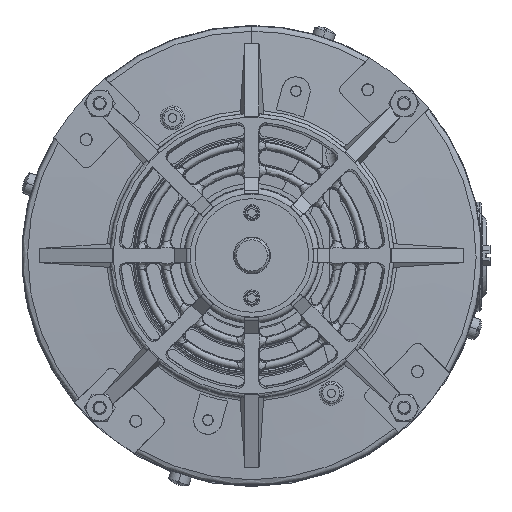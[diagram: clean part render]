
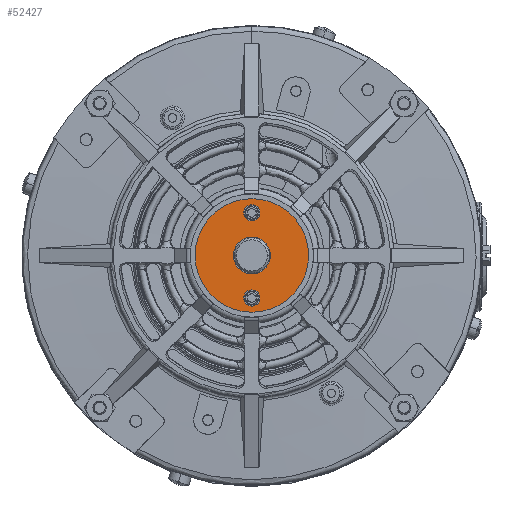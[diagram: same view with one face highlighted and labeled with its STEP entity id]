
A CAD part, top view. The second image highlights one B-rep face of the part: STEP entity #52427.
In plain terms, the highlighted planar face has unit normal (0, 0, 1).
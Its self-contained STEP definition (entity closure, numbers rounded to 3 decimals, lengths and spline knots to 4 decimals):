
#6622 = ORIENTED_EDGE ( 'NONE', *, *, #18330, .F. ) ;
#7946 = CARTESIAN_POINT ( 'NONE',  ( 0., 0., 5.355 ) ) ;
#8003 = EDGE_LOOP ( 'NONE', ( #28621, #103102 ) ) ;
#9812 = VERTEX_POINT ( 'NONE', #74674 ) ;
#11898 = AXIS2_PLACEMENT_3D ( 'NONE', #45367, #109101, #54540 ) ;
#12119 = EDGE_LOOP ( 'NONE', ( #48037, #84038 ) ) ;
#17828 = CIRCLE ( 'NONE', #11898, 0.8 ) ;
#18330 = EDGE_CURVE ( 'NONE', #112537, #60529, #21541, .T. ) ;
#20291 = CIRCLE ( 'NONE', #72944, 0.26 ) ;
#21541 = CIRCLE ( 'NONE', #45122, 0.0625 ) ;
#22797 = AXIS2_PLACEMENT_3D ( 'NONE', #102801, #48287, #112010 ) ;
#23694 = EDGE_LOOP ( 'NONE', ( #52289, #54742 ) ) ;
#26056 = PLANE ( 'NONE',  #113555 ) ;
#26783 = AXIS2_PLACEMENT_3D ( 'NONE', #45974, #109716, #55155 ) ;
#28621 = ORIENTED_EDGE ( 'NONE', *, *, #64311, .F. ) ;
#29109 = DIRECTION ( 'NONE',  ( 0., -1., 0. ) ) ;
#31647 = CARTESIAN_POINT ( 'NONE',  ( 0., 0.5375, 5.355 ) ) ;
#34985 = CIRCLE ( 'NONE', #22797, 0.8 ) ;
#35256 = DIRECTION ( 'NONE',  ( 0., 0., -1. ) ) ;
#37900 = CIRCLE ( 'NONE', #26783, 0.26 ) ;
#38575 = AXIS2_PLACEMENT_3D ( 'NONE', #44558, #108293, #53741 ) ;
#41101 = CARTESIAN_POINT ( 'NONE',  ( 0., -0.6, 5.355 ) ) ;
#42698 = EDGE_CURVE ( 'NONE', #94001, #95883, #20291, .T. ) ;
#44558 = CARTESIAN_POINT ( 'NONE',  ( 0., 0.6, 5.355 ) ) ;
#45122 = AXIS2_PLACEMENT_3D ( 'NONE', #114406, #54171, #29109 ) ;
#45367 = CARTESIAN_POINT ( 'NONE',  ( 0., 0., 5.355 ) ) ;
#45974 = CARTESIAN_POINT ( 'NONE',  ( 0., 0., 5.355 ) ) ;
#48037 = ORIENTED_EDGE ( 'NONE', *, *, #72544, .F. ) ;
#48287 = DIRECTION ( 'NONE',  ( 0., 0., -1. ) ) ;
#49523 = EDGE_CURVE ( 'NONE', #110882, #9812, #111516, .T. ) ;
#50260 = DIRECTION ( 'NONE',  ( 0., -1., 0. ) ) ;
#50409 = VERTEX_POINT ( 'NONE', #93711 ) ;
#50451 = CARTESIAN_POINT ( 'NONE',  ( 0., -0.6, 5.355 ) ) ;
#52289 = ORIENTED_EDGE ( 'NONE', *, *, #42698, .T. ) ;
#52427 = ADVANCED_FACE ( 'NONE', ( #96295, #95846, #116963, #98787 ), #26056, .F. ) ;
#53741 = DIRECTION ( 'NONE',  ( 0., -1., 0. ) ) ;
#54171 = DIRECTION ( 'NONE',  ( 0., 0., 1. ) ) ;
#54540 = DIRECTION ( 'NONE',  ( 0., 1., 0. ) ) ;
#54742 = ORIENTED_EDGE ( 'NONE', *, *, #54963, .T. ) ;
#54958 = CARTESIAN_POINT ( 'NONE',  ( 0., 0.26, 5.355 ) ) ;
#54963 = EDGE_CURVE ( 'NONE', #95883, #94001, #37900, .T. ) ;
#55155 = DIRECTION ( 'NONE',  ( 0., 1., 0. ) ) ;
#59608 = DIRECTION ( 'NONE',  ( 0., -1., 0. ) ) ;
#60529 = VERTEX_POINT ( 'NONE', #31647 ) ;
#62754 = DIRECTION ( 'NONE',  ( 0., 1., 0. ) ) ;
#64311 = EDGE_CURVE ( 'NONE', #9812, #110882, #117331, .T. ) ;
#69652 = AXIS2_PLACEMENT_3D ( 'NONE', #41101, #104785, #50260 ) ;
#69806 = CARTESIAN_POINT ( 'NONE',  ( 0., -0.5375, 5.355 ) ) ;
#71269 = CIRCLE ( 'NONE', #38575, 0.0625 ) ;
#72544 = EDGE_CURVE ( 'NONE', #105398, #50409, #34985, .T. ) ;
#72944 = AXIS2_PLACEMENT_3D ( 'NONE', #7946, #98282, #62754 ) ;
#74674 = CARTESIAN_POINT ( 'NONE',  ( 0., -0.6625, 5.355 ) ) ;
#80167 = EDGE_CURVE ( 'NONE', #50409, #105398, #17828, .T. ) ;
#80778 = CARTESIAN_POINT ( 'NONE',  ( 0., -0.26, 5.355 ) ) ;
#84038 = ORIENTED_EDGE ( 'NONE', *, *, #80167, .F. ) ;
#86388 = AXIS2_PLACEMENT_3D ( 'NONE', #50451, #114183, #59608 ) ;
#87344 = ORIENTED_EDGE ( 'NONE', *, *, #105367, .F. ) ;
#89497 = CARTESIAN_POINT ( 'NONE',  ( 0.8, 0., 5.355 ) ) ;
#93711 = CARTESIAN_POINT ( 'NONE',  ( 0., -0.8, 5.355 ) ) ;
#94001 = VERTEX_POINT ( 'NONE', #54958 ) ;
#95846 = FACE_BOUND ( 'NONE', #113899, .T. ) ;
#95883 = VERTEX_POINT ( 'NONE', #80778 ) ;
#96295 = FACE_BOUND ( 'NONE', #8003, .T. ) ;
#97358 = CARTESIAN_POINT ( 'NONE',  ( 0., 0.6625, 5.355 ) ) ;
#98282 = DIRECTION ( 'NONE',  ( 0., 0., -1. ) ) ;
#98787 = FACE_BOUND ( 'NONE', #23694, .T. ) ;
#98983 = DIRECTION ( 'NONE',  ( 0., 1., 0. ) ) ;
#102801 = CARTESIAN_POINT ( 'NONE',  ( 0., 0., 5.355 ) ) ;
#103102 = ORIENTED_EDGE ( 'NONE', *, *, #49523, .F. ) ;
#104785 = DIRECTION ( 'NONE',  ( 0., 0., 1. ) ) ;
#105367 = EDGE_CURVE ( 'NONE', #60529, #112537, #71269, .T. ) ;
#105398 = VERTEX_POINT ( 'NONE', #117456 ) ;
#108293 = DIRECTION ( 'NONE',  ( 0., 0., 1. ) ) ;
#109101 = DIRECTION ( 'NONE',  ( 0., 0., -1. ) ) ;
#109716 = DIRECTION ( 'NONE',  ( 0., 0., -1. ) ) ;
#110882 = VERTEX_POINT ( 'NONE', #69806 ) ;
#111516 = CIRCLE ( 'NONE', #69652, 0.0625 ) ;
#112010 = DIRECTION ( 'NONE',  ( 0., 1., 0. ) ) ;
#112537 = VERTEX_POINT ( 'NONE', #97358 ) ;
#113555 = AXIS2_PLACEMENT_3D ( 'NONE', #89497, #35256, #98983 ) ;
#113899 = EDGE_LOOP ( 'NONE', ( #87344, #6622 ) ) ;
#114183 = DIRECTION ( 'NONE',  ( 0., 0., 1. ) ) ;
#114406 = CARTESIAN_POINT ( 'NONE',  ( 0., 0.6, 5.355 ) ) ;
#116963 = FACE_OUTER_BOUND ( 'NONE', #12119, .T. ) ;
#117331 = CIRCLE ( 'NONE', #86388, 0.0625 ) ;
#117456 = CARTESIAN_POINT ( 'NONE',  ( 0., 0.8, 5.355 ) ) ;
